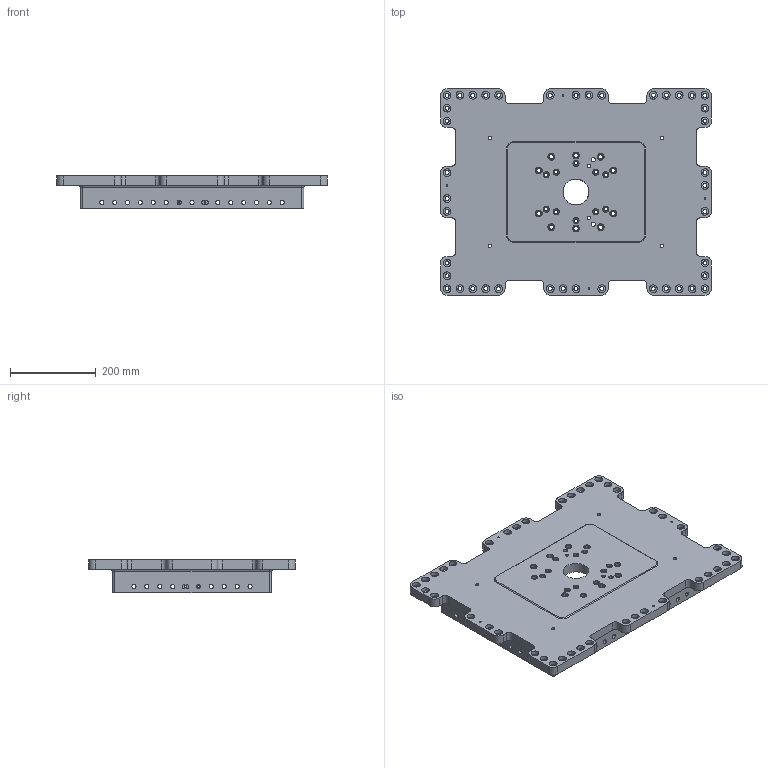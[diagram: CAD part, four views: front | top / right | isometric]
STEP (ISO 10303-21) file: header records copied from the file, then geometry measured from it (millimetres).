
FILE_DESCRIPTION(('CATIA V5 STEP Exchange'),'2;1');
FILE_NAME('C:\Users\User\Desktop\stp\EGT017.1.stp','2017-07-21T01:12:34+00:00',('none'),('none'),'CATIA Version 5 Release 21 GA (IN-10)','CATIA V5 STEP AP203','none');
FILE_SCHEMA(('CONFIG_CONTROL_DESIGN'));
Length unit declared in the file: millimetre
Products named in the file (1): EGT017.1
Bounding box: 630 x 480 x 79 mm (x, y, z)
Volume: 7818763.4 mm3; surface area: 899064.1 mm2
Topology: 40 solids, 40 shells, 1482 faces, 4019 edges, 2669 vertices
Faces by surface type: plane 870, cylinder 496, extrusion 100, torus 8, sphere 8
Entity records: 50069 total; most frequent: CARTESIAN_POINT 13247, ORIENTED_EDGE 8022, DIRECTION 6317, EDGE_CURVE 4011, VECTOR 2899, LINE 2799, VERTEX_POINT 2666, AXIS2_PLACEMENT_3D 2115
